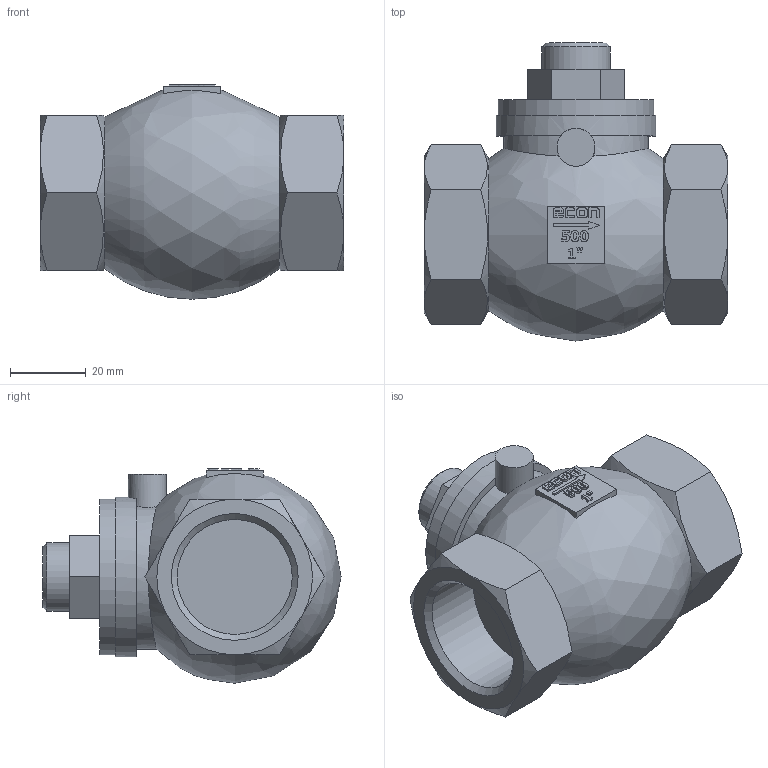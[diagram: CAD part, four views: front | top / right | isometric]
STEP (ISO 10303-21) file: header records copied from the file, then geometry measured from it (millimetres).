
FILE_DESCRIPTION(/* description */ ('Eriks item no: 11811311'),/* implementation_level */ '2;1');
FILE_NAME(/* name */ 'L:\DATA\ENG\Inventor\Econ 3D modellen\terugslagklep\500\500-025-PN16.stp',/* time_stamp */ '2023-12-06T15:57:02+01:00',/* author */ ('roger.thijssen'),/* organization */ (''),/* preprocessor_version */ 'ST-DEVELOPER v18',/* originating_system */ 'Autodesk Inventor 2020',/* authorisation */ '');
FILE_SCHEMA (('CONFIG_CONTROL_DESIGN'));
Length unit declared in the file: millimetre
Products named in the file (1): Check valve, 500-025-PN16
Bounding box: 80 x 78.5 x 56.5 mm (x, y, z)
Volume: 138774.2 mm3; surface area: 22201.8 mm2
Topology: 1 solids, 1 shells, 194 faces, 504 edges, 334 vertices
Faces by surface type: plane 117, bspline 40, cylinder 20, cone 17
Full cylindrical faces by diameter (mm): 10 x1, 18 x1, 30.291 x2, 41 x1, 42 x1
Entity records: 6363 total; most frequent: CARTESIAN_POINT 1875, ORIENTED_EDGE 1008, DIRECTION 758, EDGE_CURVE 504, VERTEX_POINT 334, LINE 310, VECTOR 310, AXIS2_PLACEMENT_3D 224
